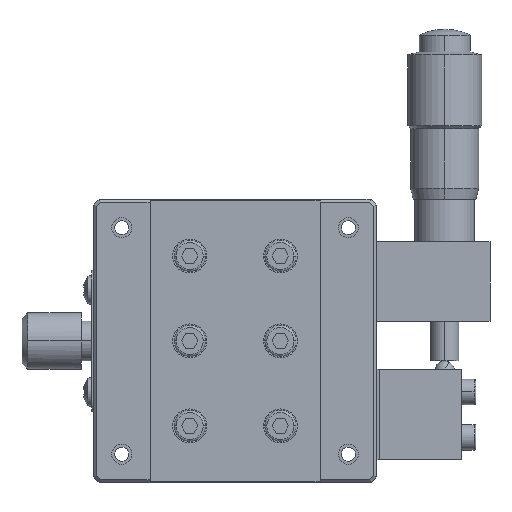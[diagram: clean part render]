
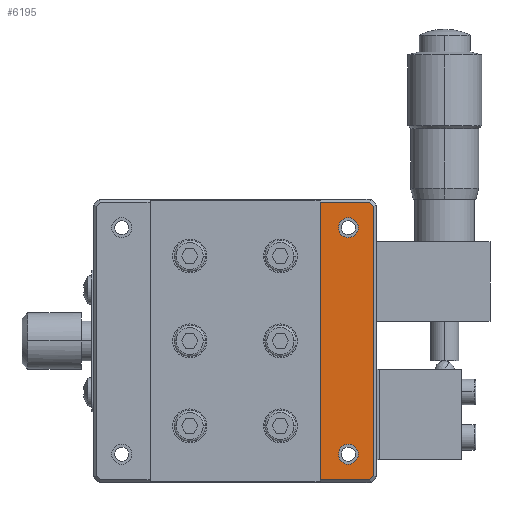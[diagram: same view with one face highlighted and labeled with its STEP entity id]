
A CAD part, front view. The second image highlights one B-rep face of the part: STEP entity #6195.
In plain terms, the highlighted planar face has unit normal (0, -1, 0).
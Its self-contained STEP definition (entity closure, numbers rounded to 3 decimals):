
#1286 = CARTESIAN_POINT ( 'NONE',  ( 115.6, -30., 67.23 ) ) ;
#1287 = DIRECTION ( 'NONE',  ( 0., -1., 0. ) ) ;
#1288 = DIRECTION ( 'NONE',  ( 0., 0., 1. ) ) ;
#3713 = CARTESIAN_POINT ( 'NONE',  ( 115.6, -30., 68.98 ) ) ;
#3716 = CARTESIAN_POINT ( 'NONE',  ( 115.6, -30., 65.48 ) ) ;
#3717 = CARTESIAN_POINT ( 'NONE',  ( 115.6, -30., 28.98 ) ) ;
#3720 = CARTESIAN_POINT ( 'NONE',  ( 115.6, -30., 25.48 ) ) ;
#3755 = CARTESIAN_POINT ( 'NONE',  ( 110.6, -30., 71.73 ) ) ;
#3762 = CARTESIAN_POINT ( 'NONE',  ( 110.6, -30., 22.73 ) ) ;
#3769 = CARTESIAN_POINT ( 'NONE',  ( 119.393, -30., 22.73 ) ) ;
#3770 = CARTESIAN_POINT ( 'NONE',  ( 119.393, -30., 71.73 ) ) ;
#3773 = CARTESIAN_POINT ( 'NONE',  ( 120.1, -30., 23.437 ) ) ;
#3776 = CARTESIAN_POINT ( 'NONE',  ( 120.1, -30., 71.023 ) ) ;
#4416 = LINE ( 'NONE', #4417, #6225 ) ;
#4417 = CARTESIAN_POINT ( 'NONE',  ( 120.1, -30., 23.437 ) ) ;
#4418 = CARTESIAN_POINT ( 'NONE',  ( 115.6, -30., 27.23 ) ) ;
#4419 = DIRECTION ( 'NONE',  ( 0., -1., 0. ) ) ;
#4420 = DIRECTION ( 'NONE',  ( 0., 0., 1. ) ) ;
#4421 = LINE ( 'NONE', #4431, #6222 ) ;
#4422 = LINE ( 'NONE', #4428, #6219 ) ;
#4423 = CARTESIAN_POINT ( 'NONE',  ( 115.6, -30., 67.23 ) ) ;
#4424 = DIRECTION ( 'NONE',  ( 0., -1., 0. ) ) ;
#4425 = DIRECTION ( 'NONE',  ( 0., 0., 1. ) ) ;
#4427 = DIRECTION ( 'NONE',  ( -0.707, 0., -0.707 ) ) ;
#4428 = CARTESIAN_POINT ( 'NONE',  ( 120.1, -30., 22.23 ) ) ;
#4430 = DIRECTION ( 'NONE',  ( 0., 0., -1. ) ) ;
#4431 = CARTESIAN_POINT ( 'NONE',  ( 119.393, -30., 71.73 ) ) ;
#4432 = DIRECTION ( 'NONE',  ( 0.707, 0., -0.707 ) ) ;
#4608 = AXIS2_PLACEMENT_3D ( 'NONE', #14188, #14189, #14190 ) ;
#4612 = CIRCLE ( 'NONE', #4608, 1.75 ) ;
#4636 = VECTOR ( 'NONE', #14133, 1000. ) ;
#4638 = VECTOR ( 'NONE', #14130, 1000. ) ;
#4641 = VECTOR ( 'NONE', #14125, 1000. ) ;
#4706 = AXIS2_PLACEMENT_3D ( 'NONE', #17052, #17044, #17058 ) ;
#6195 = ADVANCED_FACE ( 'NONE', ( #17053, #17049, #17055 ), #17056, .F. ) ;
#6219 = VECTOR ( 'NONE', #4430, 1000. ) ;
#6222 = VECTOR ( 'NONE', #4432, 1000. ) ;
#6224 = AXIS2_PLACEMENT_3D ( 'NONE', #4423, #4424, #4425 ) ;
#6225 = VECTOR ( 'NONE', #4427, 1000. ) ;
#6226 = AXIS2_PLACEMENT_3D ( 'NONE', #4418, #4419, #4420 ) ;
#6227 = CIRCLE ( 'NONE', #6224, 1.75 ) ;
#6229 = CIRCLE ( 'NONE', #6226, 1.75 ) ;
#9183 = AXIS2_PLACEMENT_3D ( 'NONE', #1286, #1287, #1288 ) ;
#9187 = CIRCLE ( 'NONE', #9183, 1.75 ) ;
#9303 = EDGE_CURVE ( 'NONE', #13548, #13533, #14116, .T. ) ;
#9305 = EDGE_CURVE ( 'NONE', #13533, #13540, #14128, .T. ) ;
#9306 = EDGE_CURVE ( 'NONE', #13547, #13540, #14131, .T. ) ;
#9324 = EDGE_CURVE ( 'NONE', #13495, #13498, #4612, .T. ) ;
#9784 = EDGE_CURVE ( 'NONE', #13491, #13494, #9187, .T. ) ;
#13491 = VERTEX_POINT ( 'NONE', #3713 ) ;
#13494 = VERTEX_POINT ( 'NONE', #3716 ) ;
#13495 = VERTEX_POINT ( 'NONE', #3717 ) ;
#13498 = VERTEX_POINT ( 'NONE', #3720 ) ;
#13533 = VERTEX_POINT ( 'NONE', #3755 ) ;
#13540 = VERTEX_POINT ( 'NONE', #3762 ) ;
#13547 = VERTEX_POINT ( 'NONE', #3769 ) ;
#13548 = VERTEX_POINT ( 'NONE', #3770 ) ;
#13551 = VERTEX_POINT ( 'NONE', #3773 ) ;
#13554 = VERTEX_POINT ( 'NONE', #3776 ) ;
#14116 = LINE ( 'NONE', #14123, #4641 ) ;
#14123 = CARTESIAN_POINT ( 'NONE',  ( 70.6, -30., 71.73 ) ) ;
#14125 = DIRECTION ( 'NONE',  ( -1., 0., 0. ) ) ;
#14128 = LINE ( 'NONE', #14129, #4638 ) ;
#14129 = CARTESIAN_POINT ( 'NONE',  ( 110.6, -30., 16.23 ) ) ;
#14130 = DIRECTION ( 'NONE',  ( 0., 0., -1. ) ) ;
#14131 = LINE ( 'NONE', #14132, #4636 ) ;
#14132 = CARTESIAN_POINT ( 'NONE',  ( 70.6, -30., 22.73 ) ) ;
#14133 = DIRECTION ( 'NONE',  ( -1., 0., 0. ) ) ;
#14188 = CARTESIAN_POINT ( 'NONE',  ( 115.6, -30., 27.23 ) ) ;
#14189 = DIRECTION ( 'NONE',  ( 0., -1., 0. ) ) ;
#14190 = DIRECTION ( 'NONE',  ( 0., 0., 1. ) ) ;
#17044 = DIRECTION ( 'NONE',  ( 0., 1., 0. ) ) ;
#17049 = FACE_BOUND ( 'NONE', #18106, .T. ) ;
#17052 = CARTESIAN_POINT ( 'NONE',  ( 70.6, -30., 22.23 ) ) ;
#17053 = FACE_BOUND ( 'NONE', #17880, .T. ) ;
#17055 = FACE_OUTER_BOUND ( 'NONE', #17596, .T. ) ;
#17056 = PLANE ( 'NONE',  #4706 ) ;
#17058 = DIRECTION ( 'NONE',  ( 0., 0., 1. ) ) ;
#17596 = EDGE_LOOP ( 'NONE', ( #21934, #21928, #21925, #21917, #21912, #21898 ) ) ;
#17880 = EDGE_LOOP ( 'NONE', ( #21986, #21982 ) ) ;
#18106 = EDGE_LOOP ( 'NONE', ( #21970, #21941 ) ) ;
#19084 = EDGE_CURVE ( 'NONE', #13498, #13495, #6229, .T. ) ;
#19085 = EDGE_CURVE ( 'NONE', #13494, #13491, #6227, .T. ) ;
#19086 = EDGE_CURVE ( 'NONE', #13551, #13547, #4416, .T. ) ;
#19087 = EDGE_CURVE ( 'NONE', #13554, #13551, #4422, .T. ) ;
#19088 = EDGE_CURVE ( 'NONE', #13548, #13554, #4421, .T. ) ;
#21898 = ORIENTED_EDGE ( 'NONE', *, *, #9306, .F. ) ;
#21912 = ORIENTED_EDGE ( 'NONE', *, *, #9305, .T. ) ;
#21917 = ORIENTED_EDGE ( 'NONE', *, *, #9303, .T. ) ;
#21925 = ORIENTED_EDGE ( 'NONE', *, *, #19088, .F. ) ;
#21928 = ORIENTED_EDGE ( 'NONE', *, *, #19087, .F. ) ;
#21934 = ORIENTED_EDGE ( 'NONE', *, *, #19086, .F. ) ;
#21941 = ORIENTED_EDGE ( 'NONE', *, *, #19085, .F. ) ;
#21970 = ORIENTED_EDGE ( 'NONE', *, *, #9784, .F. ) ;
#21982 = ORIENTED_EDGE ( 'NONE', *, *, #19084, .F. ) ;
#21986 = ORIENTED_EDGE ( 'NONE', *, *, #9324, .F. ) ;
